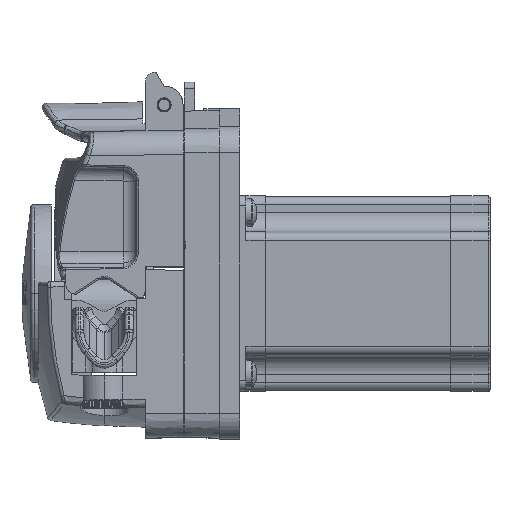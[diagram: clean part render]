
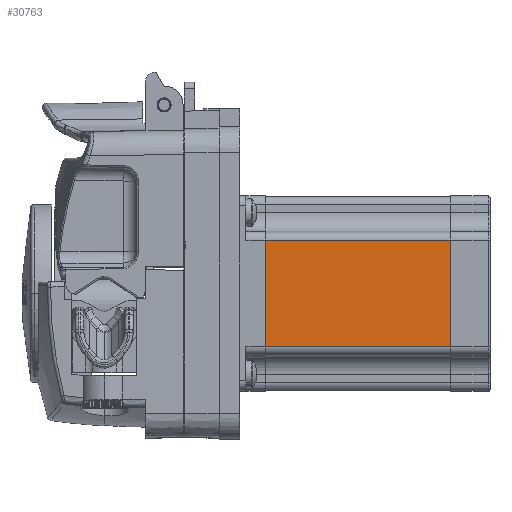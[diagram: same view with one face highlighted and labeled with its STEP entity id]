
A CAD part, top view. The second image highlights one B-rep face of the part: STEP entity #30763.
In plain terms, the highlighted planar face has unit normal (0, 0, 1).
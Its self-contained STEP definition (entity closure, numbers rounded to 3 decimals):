
#3263 = CARTESIAN_POINT ( 'NONE',  ( 101.1, 15.57, 28.3 ) ) ;
#3469 = EDGE_CURVE ( 'NONE', #13528, #14561, #21105, .T. ) ;
#6152 = ORIENTED_EDGE ( 'NONE', *, *, #6218, .F. ) ;
#6218 = EDGE_CURVE ( 'NONE', #8394, #14561, #41937, .T. ) ;
#8135 = ORIENTED_EDGE ( 'NONE', *, *, #40037, .T. ) ;
#8394 = VERTEX_POINT ( 'NONE', #17786 ) ;
#10600 = CARTESIAN_POINT ( 'NONE',  ( 47.1, -15.57, 28.3 ) ) ;
#11367 = LINE ( 'NONE', #26808, #31781 ) ;
#12266 = DIRECTION ( 'NONE',  ( 1., 0., 0. ) ) ;
#13528 = VERTEX_POINT ( 'NONE', #10600 ) ;
#14561 = VERTEX_POINT ( 'NONE', #52594 ) ;
#16495 = FACE_OUTER_BOUND ( 'NONE', #49930, .T. ) ;
#17786 = CARTESIAN_POINT ( 'NONE',  ( 101.1, 15.57, 28.3 ) ) ;
#19460 = AXIS2_PLACEMENT_3D ( 'NONE', #36175, #36705, #12266 ) ;
#20271 = ORIENTED_EDGE ( 'NONE', *, *, #3469, .T. ) ;
#21105 = LINE ( 'NONE', #49688, #42791 ) ;
#21590 = LINE ( 'NONE', #33751, #29852 ) ;
#25010 = ORIENTED_EDGE ( 'NONE', *, *, #25863, .F. ) ;
#25863 = EDGE_CURVE ( 'NONE', #29097, #8394, #11367, .T. ) ;
#26808 = CARTESIAN_POINT ( 'NONE',  ( -44.01, 15.57, 28.3 ) ) ;
#29097 = VERTEX_POINT ( 'NONE', #32961 ) ;
#29852 = VECTOR ( 'NONE', #45849, 1000. ) ;
#30763 = ADVANCED_FACE ( 'NONE', ( #16495 ), #32620, .T. ) ;
#30907 = DIRECTION ( 'NONE',  ( 1., 0., 0. ) ) ;
#31064 = VECTOR ( 'NONE', #40005, 1000. ) ;
#31781 = VECTOR ( 'NONE', #30907, 1000. ) ;
#32620 = PLANE ( 'NONE',  #19460 ) ;
#32961 = CARTESIAN_POINT ( 'NONE',  ( 47.1, 15.57, 28.3 ) ) ;
#33751 = CARTESIAN_POINT ( 'NONE',  ( 47.1, 15.57, 28.3 ) ) ;
#36175 = CARTESIAN_POINT ( 'NONE',  ( -44.01, 15.57, 28.3 ) ) ;
#36705 = DIRECTION ( 'NONE',  ( 0., 0., 1. ) ) ;
#40005 = DIRECTION ( 'NONE',  ( 0., -1., 0. ) ) ;
#40037 = EDGE_CURVE ( 'NONE', #29097, #13528, #21590, .T. ) ;
#41937 = LINE ( 'NONE', #3263, #31064 ) ;
#42791 = VECTOR ( 'NONE', #47974, 1000. ) ;
#45849 = DIRECTION ( 'NONE',  ( 0., -1., 0. ) ) ;
#47974 = DIRECTION ( 'NONE',  ( 1., 0., 0. ) ) ;
#49688 = CARTESIAN_POINT ( 'NONE',  ( -44.01, -15.57, 28.3 ) ) ;
#49930 = EDGE_LOOP ( 'NONE', ( #8135, #20271, #6152, #25010 ) ) ;
#52594 = CARTESIAN_POINT ( 'NONE',  ( 101.1, -15.57, 28.3 ) ) ;
